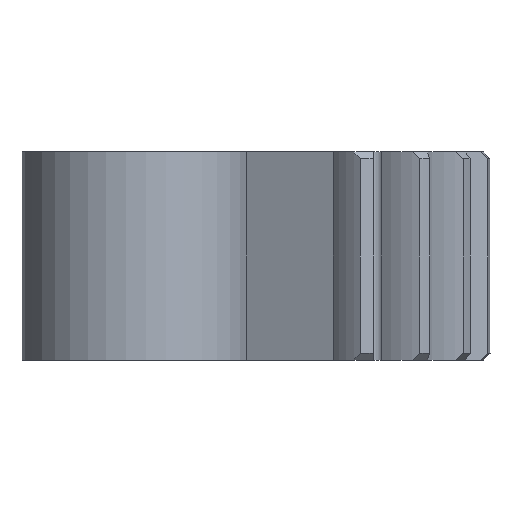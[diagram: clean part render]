
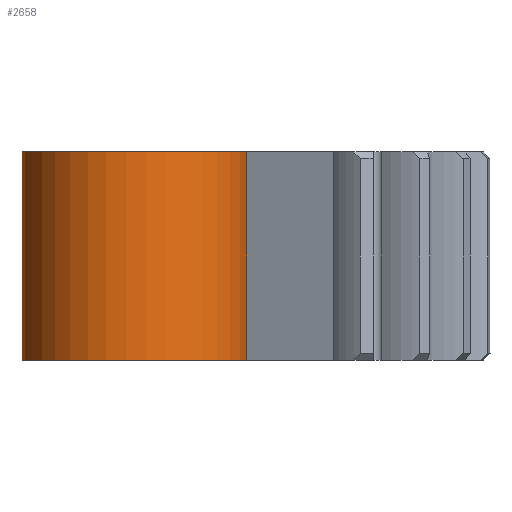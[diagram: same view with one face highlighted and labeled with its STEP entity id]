
A CAD part, front view. The second image highlights one B-rep face of the part: STEP entity #2658.
In plain terms, the highlighted cylindrical face has radius 5.5 mm (diameter 11 mm), a partial arc.
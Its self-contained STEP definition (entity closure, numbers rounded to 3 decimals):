
#319=CIRCLE('',#3007,5.5);
#321=CIRCLE('',#3010,5.5);
#406=CYLINDRICAL_SURFACE('',#3014,5.5);
#546=FACE_OUTER_BOUND('',#690,.T.);
#690=EDGE_LOOP('',(#2493,#2494,#2495,#2496));
#829=LINE('',#4859,#973);
#834=LINE('',#4876,#978);
#973=VECTOR('',#3821,10.);
#978=VECTOR('',#3842,10.);
#1249=VERTEX_POINT('',#4856);
#1250=VERTEX_POINT('',#4858);
#1251=VERTEX_POINT('',#4862);
#1253=VERTEX_POINT('',#4868);
#1659=EDGE_CURVE('',#1249,#1250,#829,.T.);
#1661=EDGE_CURVE('',#1251,#1250,#319,.T.);
#1665=EDGE_CURVE('',#1249,#1253,#321,.T.);
#1668=EDGE_CURVE('',#1251,#1253,#834,.T.);
#2493=ORIENTED_EDGE('',*,*,#1659,.F.);
#2494=ORIENTED_EDGE('',*,*,#1665,.T.);
#2495=ORIENTED_EDGE('',*,*,#1668,.F.);
#2496=ORIENTED_EDGE('',*,*,#1661,.T.);
#2658=ADVANCED_FACE('',(#546),#406,.T.);
#3007=AXIS2_PLACEMENT_3D('',#4863,#3825,#3826);
#3010=AXIS2_PLACEMENT_3D('',#4870,#3833,#3834);
#3014=AXIS2_PLACEMENT_3D('',#4877,#3843,#3844);
#3821=DIRECTION('',(0.,0.,1.));
#3825=DIRECTION('center_axis',(0.,0.,-1.));
#3826=DIRECTION('ref_axis',(-0.966,0.259,0.));
#3833=DIRECTION('center_axis',(0.,0.,1.));
#3834=DIRECTION('ref_axis',(-0.966,0.259,0.));
#3842=DIRECTION('',(0.,0.,-1.));
#3843=DIRECTION('center_axis',(0.,0.,-1.));
#3844=DIRECTION('ref_axis',(-0.966,0.259,0.));
#4856=CARTESIAN_POINT('',(104.311,192.188,345.5));
#4858=CARTESIAN_POINT('',(104.311,192.188,355.5));
#4859=CARTESIAN_POINT('',(104.311,192.188,350.5));
#4862=CARTESIAN_POINT('',(114.936,189.34,355.5));
#4863=CARTESIAN_POINT('Origin',(109.624,190.764,355.5));
#4868=CARTESIAN_POINT('',(114.936,189.34,345.5));
#4870=CARTESIAN_POINT('Origin',(109.624,190.764,345.5));
#4876=CARTESIAN_POINT('',(114.936,189.34,350.5));
#4877=CARTESIAN_POINT('Origin',(109.624,190.764,350.5));
